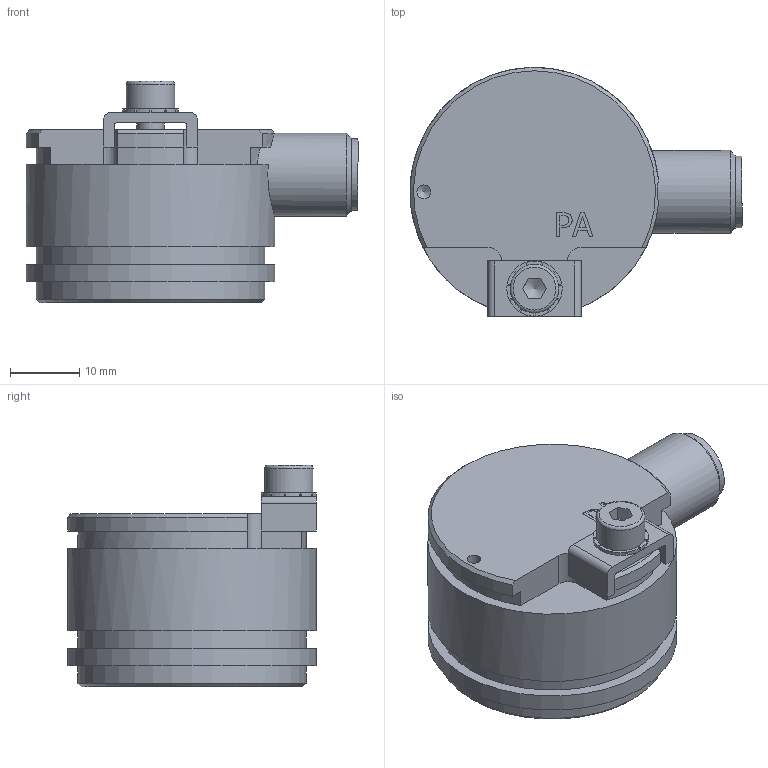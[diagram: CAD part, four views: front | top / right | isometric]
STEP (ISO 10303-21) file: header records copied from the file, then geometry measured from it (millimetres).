
FILE_DESCRIPTION((''),'2;1');
FILE_NAME('K:\Daten\Bauteil6.stp','2014-03-10T11:59:15',('kamp'),(''),'Autodesk Inventor 2008','Autodesk Inventor 2008','');
FILE_SCHEMA(('AUTOMOTIVE_DESIGN { 1 0 10303 214 1 1 1 1 }'));
Length unit declared in the file: millimetre
Products named in the file (1): Bauteil6
Bounding box: 48 x 36 x 32.01 mm (x, y, z)
Volume: 24919.1 mm3; surface area: 6702.3 mm2
Topology: 1 solids, 1 shells, 858 faces, 2323 edges, 1536 vertices
Faces by surface type: plane 478, bspline 298, cylinder 67, cone 9, sphere 5, torus 1
Full cylindrical faces by diameter (mm): 0.923 x1, 1 x5, 1.024 x1, 4 x1, 7 x1, 8.3 x1, 10.4 x1, 12 x1, 33 x2, 36 x2
Entity records: 28942 total; most frequent: CARTESIAN_POINT 8677, ORIENTED_EDGE 4568, DIRECTION 2974, EDGE_CURVE 2284, VERTEX_POINT 1529, VECTOR 1486, LINE 1486, EDGE_LOOP 959
